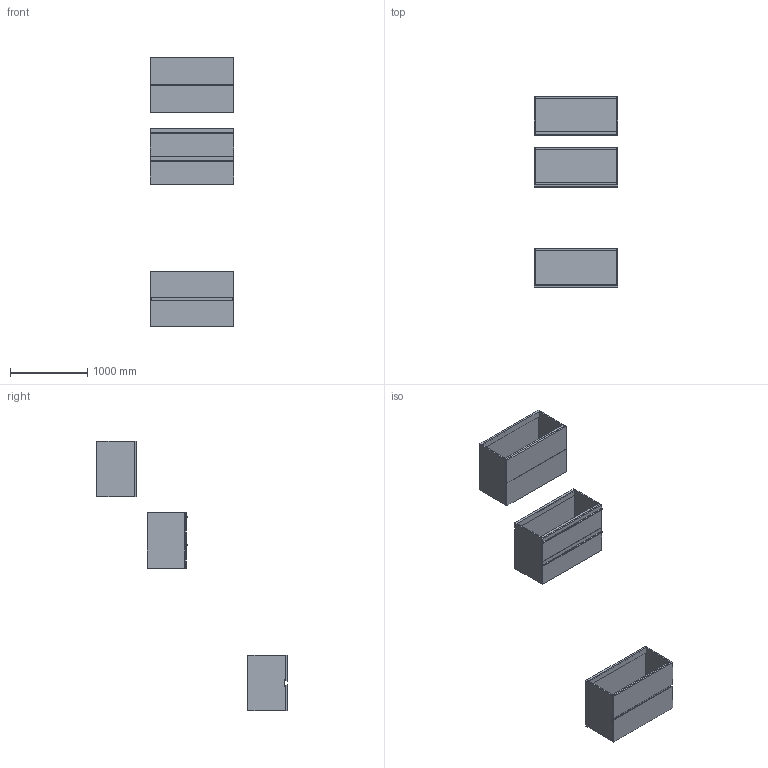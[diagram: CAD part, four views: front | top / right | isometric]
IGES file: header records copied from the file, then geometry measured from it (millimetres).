
Start section: Data from Parasolid IGES Translator 19.0.9, Copyright(c) 2006 Siemens PL M Software. All Rights Reserved.
Global section: file name: noorth-SI-H 72 D 51 W 108_8624.igs; native system: By Siemens PLM Incorporated; preprocessor: XPlus GENERIC/IGES 19.0.9; author: Noname; organization: Noname; date: 20200601.121614; units: metre
Bounding box: 1080 x 2458 x 3480.01 mm (x, y, z)
Volume: 117205947.7 mm3; surface area: 18260264.7 mm2
Topology: 27 solids, 27 shells, 266 faces, 580 edges, 348 vertices
Faces by surface type: plane 182, extrusion 36, bspline 32, cylinder 16
